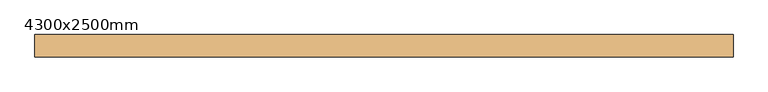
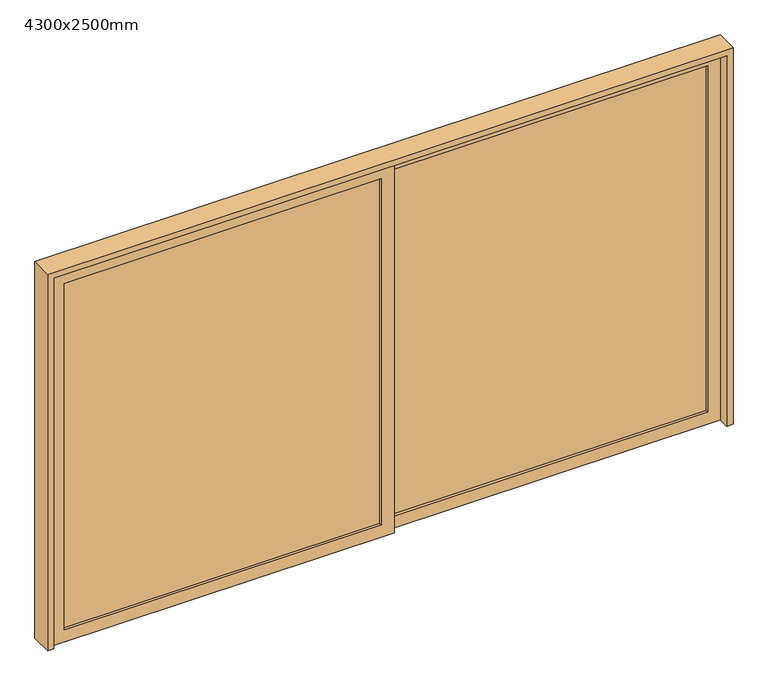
"""IFC4 building model written with IfcOpenShell, lengths in millimetres: door geometry, 双扇推拉门 : 4300x2500mm."""

from ifc_helpers import new_model, si_unit, frame, origin, place, context, project, spatial, polyline, outline, extrude, source, transform, mapped, element, save


def door_4300x2500mm_0f1cdf81(model_context):
    return source(origin(), model_context, "Body", "SweptSolid", [
        extrude(outline(polyline([(2500.0, -2025.0), (0.0, -2025.0), (0.0, -1985.0), (2460.0, -1985.0), (2460.0, 2235.0), (0.0, 2235.0), (0.0, 2275.0), (2500.0, 2275.0), (2500.0, -2025.0)])), frame((0.0, -29.0, 0.0), z_axis=(0.0, 1.0, 0.0), x_axis=(0.0, 0.0, 1.0)), (0.0, 0.0, 1.0), 138.0),
        extrude(outline(polyline([(2460.0, 85.0), (0.0, 85.0), (0.0, 2235.0), (2460.0, 2235.0), (2460.0, 85.0)]), holes=[polyline([(2380.0, 165.0), (2380.0, 2155.0), (80.0, 2155.0), (80.0, 165.0), (2380.0, 165.0)])]), frame((0.0, 40.0, 0.0), z_axis=(0.0, 1.0, 0.0), x_axis=(0.0, 0.0, 1.0)), (0.0, 0.0, 1.0), 40.0),
        extrude(outline(polyline([(2155.0, 62.5), (2155.0, 57.5), (165.0, 57.5), (165.0, 62.5), (2155.0, 62.5)])), frame((0.0, 0.0, 80.0), z_axis=(0.0, 0.0, 1.0), x_axis=(1.0, 0.0, 0.0)), (0.0, 0.0, 1.0), 2300.0),
        extrude(outline(polyline([(2460.0, -1985.0), (0.0, -1985.0), (0.0, 165.0), (2460.0, 165.0), (2460.0, -1985.0)]), holes=[polyline([(2380.0, -1905.0), (2380.0, 85.0), (80.0, 85.0), (80.0, -1905.0), (2380.0, -1905.0)])]), frame((0.0, 0.0, 0.0), z_axis=(0.0, 1.0, 0.0), x_axis=(0.0, 0.0, 1.0)), (0.0, 0.0, 1.0), 40.0),
        extrude(outline(polyline([(85.0, 22.5), (85.0, 17.5), (-1905.0, 17.5), (-1905.0, 22.5), (85.0, 22.5)])), frame((0.0, 0.0, 80.0), z_axis=(0.0, 0.0, 1.0), x_axis=(1.0, 0.0, 0.0)), (0.0, 0.0, 1.0), 2300.0),
    ])


if __name__ == "__main__":
    model = new_model("IFC4")
    model_context = context("Model", 3, world=origin())
    ifc_project = project(units=[si_unit("LENGTHUNIT", "METRE", prefix="MILLI")], contexts=[model_context])
    site = spatial("IfcSite", under=ifc_project)
    building = spatial("IfcBuilding", under=site)
    placement = place(None, origin())
    door_4300x2500mm_shape = door_4300x2500mm_0f1cdf81(model_context)
    element("IfcDoor", 1, ObjectType="双扇推拉门 : 4300x2500mm", at=placement, inside=building, context=model_context, shape_type="MappedRepresentation", body=[
        mapped(door_4300x2500mm_shape, transform((0.0, 0.0, 0.0), x_axis=(1.0, 0.0, 0.0), y_axis=(0.0, 1.0, 0.0), z_axis=(0.0, 0.0, 1.0))),
    ])
    save(model, "model.ifc")
